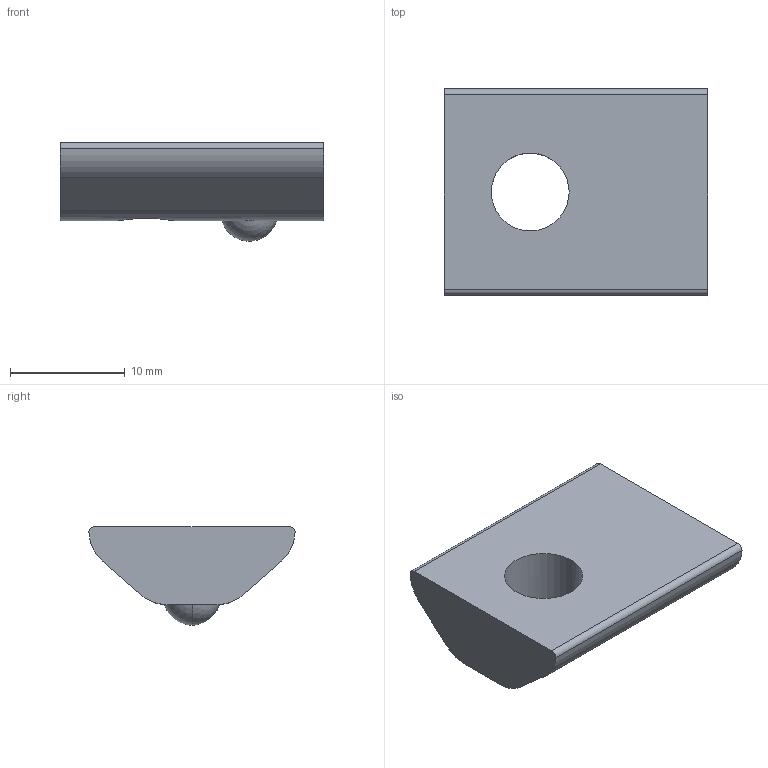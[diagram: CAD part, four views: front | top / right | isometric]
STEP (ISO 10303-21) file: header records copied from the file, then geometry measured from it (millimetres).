
FILE_DESCRIPTION (( 'STEP AP203' ), '1' );
FILE_NAME ('0108NSM8S.STEP', '2024-03-05T13:27:20', ( 'Windows-Benutzer' ), ( '' ), 'SwSTEP 2.0', 'SolidWorks 2023', '' );
FILE_SCHEMA (( 'CONFIG_CONTROL_DESIGN' ));
Length unit declared in the file: millimetre
Products named in the file (1): 0108NSM8S
Bounding box: 23 x 18 x 8.6 mm (x, y, z)
Volume: 1948 mm3; surface area: 1248.6 mm2
Topology: 1 solids, 1 shells, 18 faces, 52 edges, 35 vertices
Faces by surface type: cylinder 8, plane 8, sphere 2
Entity records: 729 total; most frequent: CARTESIAN_POINT 154, DIRECTION 110, ORIENTED_EDGE 104, EDGE_CURVE 52, AXIS2_PLACEMENT_3D 43, VERTEX_POINT 35, LINE 24, CIRCLE 24
